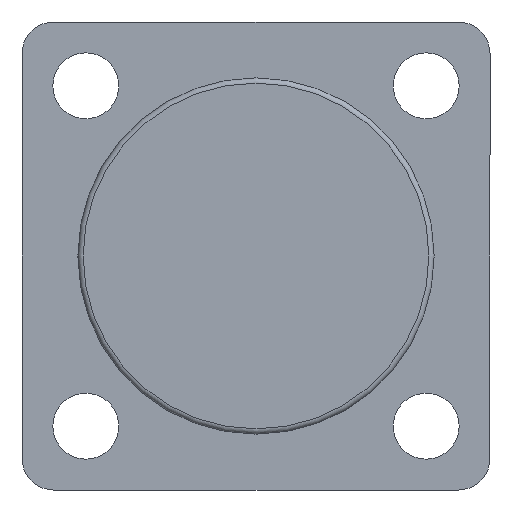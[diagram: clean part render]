
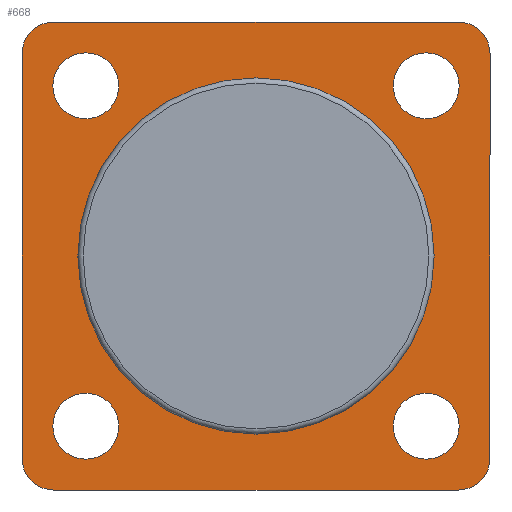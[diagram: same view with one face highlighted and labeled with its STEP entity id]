
A CAD part, front view. The second image highlights one B-rep face of the part: STEP entity #668.
In plain terms, the highlighted planar face has unit normal (0, -1, 0).
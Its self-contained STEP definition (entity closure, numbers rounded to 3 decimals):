
#4 = VERTEX_POINT ( 'NONE', #228 ) ;
#15 = CARTESIAN_POINT ( 'NONE',  ( -22., 48.4, -19. ) ) ;
#20 = DIRECTION ( 'NONE',  ( 0., -1., 0. ) ) ;
#21 = EDGE_LOOP ( 'NONE', ( #257 ) ) ;
#23 = DIRECTION ( 'NONE',  ( 0., 0., 1. ) ) ;
#32 = FACE_BOUND ( 'NONE', #341, .T. ) ;
#35 = DIRECTION ( 'NONE',  ( -1., 0., 0. ) ) ;
#36 = DIRECTION ( 'NONE',  ( 0., 1., 0. ) ) ;
#43 = ORIENTED_EDGE ( 'NONE', *, *, #612, .T. ) ;
#46 = EDGE_LOOP ( 'NONE', ( #248, #426, #414, #98, #311, #218, #508, #560 ) ) ;
#56 = CIRCLE ( 'NONE', #569, 16.292 ) ;
#67 = CARTESIAN_POINT ( 'NONE',  ( -16., 48.4, 16. ) ) ;
#70 = VERTEX_POINT ( 'NONE', #221 ) ;
#76 = CARTESIAN_POINT ( 'NONE',  ( 19., 48.4, -22. ) ) ;
#82 = CARTESIAN_POINT ( 'NONE',  ( -22., 48.4, -22. ) ) ;
#87 = EDGE_CURVE ( 'NONE', #107, #107, #687, .T. ) ;
#89 = CIRCLE ( 'NONE', #278, 3.1 ) ;
#92 = CARTESIAN_POINT ( 'NONE',  ( -19., 48.4, -22. ) ) ;
#98 = ORIENTED_EDGE ( 'NONE', *, *, #490, .T. ) ;
#101 = VERTEX_POINT ( 'NONE', #76 ) ;
#107 = VERTEX_POINT ( 'NONE', #338 ) ;
#116 = CARTESIAN_POINT ( 'NONE',  ( -16., 48.4, -12.9 ) ) ;
#122 = CARTESIAN_POINT ( 'NONE',  ( 16., 48.4, 19.1 ) ) ;
#123 = CARTESIAN_POINT ( 'NONE',  ( 22., 48.4, -22. ) ) ;
#127 = DIRECTION ( 'NONE',  ( -1., 0., 0. ) ) ;
#135 = AXIS2_PLACEMENT_3D ( 'NONE', #479, #297, #127 ) ;
#139 = EDGE_CURVE ( 'NONE', #273, #70, #522, .T. ) ;
#142 = CIRCLE ( 'NONE', #180, 3. ) ;
#144 = LINE ( 'NONE', #192, #187 ) ;
#155 = FACE_BOUND ( 'NONE', #481, .T. ) ;
#163 = EDGE_LOOP ( 'NONE', ( #673 ) ) ;
#171 = CARTESIAN_POINT ( 'NONE',  ( 19., 48.4, -19. ) ) ;
#180 = AXIS2_PLACEMENT_3D ( 'NONE', #171, #730, #395 ) ;
#187 = VECTOR ( 'NONE', #542, 1000. ) ;
#192 = CARTESIAN_POINT ( 'NONE',  ( -22., 48.4, 22. ) ) ;
#194 = DIRECTION ( 'NONE',  ( -1., 0., 0. ) ) ;
#204 = CARTESIAN_POINT ( 'NONE',  ( 0., 48.4, 0. ) ) ;
#206 = CARTESIAN_POINT ( 'NONE',  ( -16., 48.4, -16. ) ) ;
#212 = VECTOR ( 'NONE', #296, 1000. ) ;
#214 = ORIENTED_EDGE ( 'NONE', *, *, #549, .T. ) ;
#215 = EDGE_CURVE ( 'NONE', #101, #613, #357, .T. ) ;
#218 = ORIENTED_EDGE ( 'NONE', *, *, #432, .T. ) ;
#220 = ORIENTED_EDGE ( 'NONE', *, *, #87, .T. ) ;
#221 = CARTESIAN_POINT ( 'NONE',  ( -22., 48.4, 19. ) ) ;
#227 = DIRECTION ( 'NONE',  ( 0., 1., 0. ) ) ;
#228 = CARTESIAN_POINT ( 'NONE',  ( -16.292, 48.4, 0. ) ) ;
#233 = CARTESIAN_POINT ( 'NONE',  ( 22., 48.4, 19. ) ) ;
#243 = DIRECTION ( 'NONE',  ( -1., 0., 0. ) ) ;
#248 = ORIENTED_EDGE ( 'NONE', *, *, #267, .F. ) ;
#250 = CIRCLE ( 'NONE', #473, 3.1 ) ;
#257 = ORIENTED_EDGE ( 'NONE', *, *, #715, .T. ) ;
#263 = DIRECTION ( 'NONE',  ( 0., 0., 1. ) ) ;
#264 = DIRECTION ( 'NONE',  ( 0., 1., 0. ) ) ;
#267 = EDGE_CURVE ( 'NONE', #424, #70, #363, .T. ) ;
#273 = VERTEX_POINT ( 'NONE', #661 ) ;
#276 = VERTEX_POINT ( 'NONE', #116 ) ;
#278 = AXIS2_PLACEMENT_3D ( 'NONE', #287, #227, #514 ) ;
#280 = VECTOR ( 'NONE', #370, 1000. ) ;
#287 = CARTESIAN_POINT ( 'NONE',  ( 16., 48.4, 16. ) ) ;
#296 = DIRECTION ( 'NONE',  ( 0., 0., -1. ) ) ;
#297 = DIRECTION ( 'NONE',  ( 0., -1., 0. ) ) ;
#301 = CARTESIAN_POINT ( 'NONE',  ( -19., 48.4, -19. ) ) ;
#305 = VERTEX_POINT ( 'NONE', #599 ) ;
#311 = ORIENTED_EDGE ( 'NONE', *, *, #406, .F. ) ;
#314 = DIRECTION ( 'NONE',  ( 0., 0., 1. ) ) ;
#324 = EDGE_CURVE ( 'NONE', #273, #407, #144, .T. ) ;
#325 = AXIS2_PLACEMENT_3D ( 'NONE', #67, #697, #23 ) ;
#333 = VERTEX_POINT ( 'NONE', #122 ) ;
#338 = CARTESIAN_POINT ( 'NONE',  ( -16., 48.4, 19.1 ) ) ;
#341 = EDGE_LOOP ( 'NONE', ( #220 ) ) ;
#350 = CARTESIAN_POINT ( 'NONE',  ( 19., 48.4, 19. ) ) ;
#354 = LINE ( 'NONE', #123, #212 ) ;
#357 = LINE ( 'NONE', #587, #411 ) ;
#363 = LINE ( 'NONE', #82, #280 ) ;
#368 = CIRCLE ( 'NONE', #557, 3. ) ;
#370 = DIRECTION ( 'NONE',  ( 0., 0., 1. ) ) ;
#380 = FACE_BOUND ( 'NONE', #610, .T. ) ;
#389 = VERTEX_POINT ( 'NONE', #233 ) ;
#395 = DIRECTION ( 'NONE',  ( -1., 0., 0. ) ) ;
#401 = DIRECTION ( 'NONE',  ( -1., 0., 0. ) ) ;
#404 = CIRCLE ( 'NONE', #596, 3. ) ;
#406 = EDGE_CURVE ( 'NONE', #389, #305, #354, .T. ) ;
#407 = VERTEX_POINT ( 'NONE', #695 ) ;
#411 = VECTOR ( 'NONE', #194, 1000. ) ;
#414 = ORIENTED_EDGE ( 'NONE', *, *, #215, .F. ) ;
#415 = EDGE_CURVE ( 'NONE', #424, #613, #368, .T. ) ;
#424 = VERTEX_POINT ( 'NONE', #15 ) ;
#426 = ORIENTED_EDGE ( 'NONE', *, *, #415, .T. ) ;
#431 = DIRECTION ( 'NONE',  ( -1., 0., 0. ) ) ;
#432 = EDGE_CURVE ( 'NONE', #389, #407, #404, .T. ) ;
#433 = FACE_BOUND ( 'NONE', #163, .T. ) ;
#445 = VERTEX_POINT ( 'NONE', #627 ) ;
#473 = AXIS2_PLACEMENT_3D ( 'NONE', #550, #492, #314 ) ;
#479 = CARTESIAN_POINT ( 'NONE',  ( -19., 48.4, 19. ) ) ;
#481 = EDGE_LOOP ( 'NONE', ( #214 ) ) ;
#490 = EDGE_CURVE ( 'NONE', #101, #305, #142, .T. ) ;
#492 = DIRECTION ( 'NONE',  ( 0., 1., 0. ) ) ;
#508 = ORIENTED_EDGE ( 'NONE', *, *, #324, .F. ) ;
#514 = DIRECTION ( 'NONE',  ( 0., 0., 1. ) ) ;
#522 = CIRCLE ( 'NONE', #135, 3. ) ;
#530 = AXIS2_PLACEMENT_3D ( 'NONE', #206, #36, #263 ) ;
#542 = DIRECTION ( 'NONE',  ( 1., 0., 0. ) ) ;
#548 = CARTESIAN_POINT ( 'NONE',  ( 0., 48.4, 0. ) ) ;
#549 = EDGE_CURVE ( 'NONE', #333, #333, #89, .T. ) ;
#550 = CARTESIAN_POINT ( 'NONE',  ( 16., 48.4, -16. ) ) ;
#557 = AXIS2_PLACEMENT_3D ( 'NONE', #301, #20, #243 ) ;
#560 = ORIENTED_EDGE ( 'NONE', *, *, #139, .T. ) ;
#564 = CIRCLE ( 'NONE', #530, 3.1 ) ;
#569 = AXIS2_PLACEMENT_3D ( 'NONE', #548, #264, #431 ) ;
#587 = CARTESIAN_POINT ( 'NONE',  ( -22., 48.4, -22. ) ) ;
#596 = AXIS2_PLACEMENT_3D ( 'NONE', #350, #688, #401 ) ;
#599 = CARTESIAN_POINT ( 'NONE',  ( 22., 48.4, -19. ) ) ;
#606 = AXIS2_PLACEMENT_3D ( 'NONE', #204, #608, #35 ) ;
#608 = DIRECTION ( 'NONE',  ( 0., 1., 0. ) ) ;
#610 = EDGE_LOOP ( 'NONE', ( #43 ) ) ;
#612 = EDGE_CURVE ( 'NONE', #445, #445, #250, .T. ) ;
#613 = VERTEX_POINT ( 'NONE', #92 ) ;
#627 = CARTESIAN_POINT ( 'NONE',  ( 16., 48.4, -12.9 ) ) ;
#648 = EDGE_CURVE ( 'NONE', #4, #4, #56, .T. ) ;
#658 = FACE_OUTER_BOUND ( 'NONE', #46, .T. ) ;
#661 = CARTESIAN_POINT ( 'NONE',  ( -19., 48.4, 22. ) ) ;
#668 = ADVANCED_FACE ( 'NONE', ( #433, #32, #155, #380, #720, #658 ), #718, .F. ) ;
#673 = ORIENTED_EDGE ( 'NONE', *, *, #648, .T. ) ;
#687 = CIRCLE ( 'NONE', #325, 3.1 ) ;
#688 = DIRECTION ( 'NONE',  ( 0., -1., 0. ) ) ;
#695 = CARTESIAN_POINT ( 'NONE',  ( 19., 48.4, 22. ) ) ;
#697 = DIRECTION ( 'NONE',  ( 0., 1., 0. ) ) ;
#715 = EDGE_CURVE ( 'NONE', #276, #276, #564, .T. ) ;
#718 = PLANE ( 'NONE',  #606 ) ;
#720 = FACE_BOUND ( 'NONE', #21, .T. ) ;
#730 = DIRECTION ( 'NONE',  ( 0., -1., 0. ) ) ;
